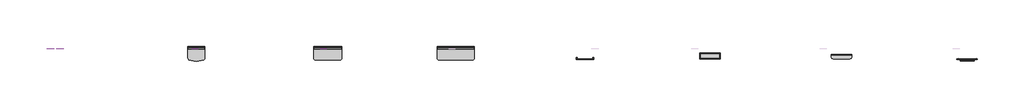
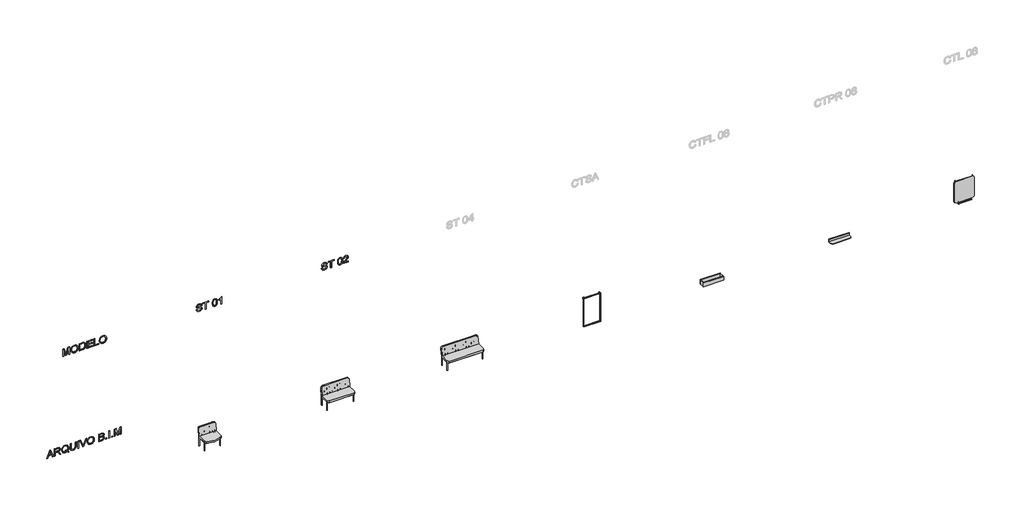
# One storey, part 1 of 2: 7 furniture elements, 4 proxies.
"""IFC4 building model written with IfcOpenShell, lengths in millimetres."""

from ifc_helpers import new_model, si_unit, frame, origin, place, context, project, spatial, polyline, outline, extrude, transform, mapped, element, save
from components import furniture_4c59f325, furniture_6d67d9ed, ctl08_756360dd, ctl08_a365a440, st_01_29b2883a, st_02_cedb4559, st_03_f2b1743f

model = new_model("IFC4")

# Units and contexts
model_context = context("Model", 3, world=origin())
ifc_project = project(units=[si_unit("LENGTHUNIT", "METRE", prefix="MILLI")], contexts=[model_context])

# Site, building, storey
site = spatial("IfcSite", under=ifc_project)
building = spatial("IfcBuilding", under=site)
storey = spatial("IfcBuildingStorey", under=building, Name="04 - Marelli - Planta Baixa - Acessórios", Elevation=-36000.0)

# Proxies
placement = place(None, origin())
element("IfcBuildingElementProxy", 1, Name="300mm Arial", ObjectType="300mm Arial", at=placement, inside=storey, context=model_context, shape_type="SweptSolid", body=[
    extrude(outline(polyline([(-34400.0, -7636.3146377), (-34400.0, -7596.5098058), (-34305.8222092, -7562.076051), (-34305.8222092, -7437.9526659), (-34400.0, -7403.4453347), (-34400.0, -7363.6405028), (-34098.6310696, -7483.9379153), (-34098.6310696, -7516.0172252), (-34400.0, -7636.3146377)]), holes=[polyline([(-34268.1510929, -7548.243688), (-34187.584936, -7518.739552), (-34136.3021859, -7499.9775703), (-34194.0596591, -7478.8611437), (-34268.1510929, -7451.7114525), (-34268.1510929, -7548.243688)])]), frame((0.0, 8778.3159498, 0.0), z_axis=(0.0, 1.0, 0.0), x_axis=(0.0, 0.0, 1.0)), (0.0, 0.0, 1.0), 10.0),
    extrude(outline(polyline([(-34400.0, -7323.3942126), (-34400.0, -7285.7230963), (-34268.1510929, -7285.7230963), (-34268.1510929, -7240.2528817), (-34269.4754681, -7218.4006911), (-34276.649167, -7200.484838), (-34296.183701, -7180.582422), (-34337.5336372, -7152.2555084), (-34400.0, -7113.0392877), (-34400.0, -7069.2613303), (-34318.3301971, -7119.5140108), (-34279.5554348, -7150.0482164), (-34263.4422034, -7171.4589486), (-34253.4542072, -7134.3488523), (-34245.4389783, -7119.9669655), (-34235.4095954, -7108.3671864), (-34210.7982899, -7093.0540983), (-34181.1102129, -7087.9497357), (-34157.2438684, -7091.0307474), (-34135.5296337, -7100.2737825), (-34118.0184507, -7114.6763626), (-34106.7612616, -7133.2360093), (-34100.6636176, -7158.629064), (-34098.6310696, -7193.5318683), (-34098.6310696, -7323.3942126), (-34400.0, -7323.3942126)]), holes=[polyline([(-34230.4799766, -7285.7230963), (-34136.3021859, -7285.7230963), (-34136.3021859, -7191.9131875), (-34139.5579415, -7162.1055488), (-34149.3252085, -7141.5501423), (-34164.1324588, -7129.6031746), (-34182.5081645, -7125.620852), (-34195.8162956, -7127.7085823), (-34208.0759631, -7133.9717732), (-34218.2111121, -7144.254075), (-34225.1456877, -7158.3991377), (-34229.1464044, -7177.1887106), (-34230.4799766, -7201.404543), (-34230.4799766, -7285.7230963)])]), frame((0.0, 8778.3159498, 0.0), z_axis=(0.0, 1.0, 0.0), x_axis=(0.0, 0.0, 1.0)), (0.0, 0.0, 1.0), 10.0),
    extrude(outline(polyline([(-34363.8739881, -6795.6307023), (-34340.3479345, -6777.1814202), (-34313.0326963, -6764.0664271), (-34281.9650618, -6756.2305406), (-34247.1818192, -6753.6185784), (-34205.3536364, -6757.9227978), (-34168.0136138, -6770.8354558), (-34136.8172207, -6791.9610794), (-34113.4199258, -6820.9041954), (-34098.7966164, -6855.7702114), (-34093.92218, -6894.6645354), (-34098.6862519, -6933.2553567), (-34112.9784674, -6967.9466288), (-34136.3849593, -6996.93573), (-34168.4918604, -7018.4200386), (-34206.944726, -7031.7189727), (-34249.3891112, -7036.1519507), (-34291.7967082, -7031.7097756), (-34329.6977507, -7018.3832504), (-34361.3539964, -6996.8161684), (-34385.0272028, -6967.6523232), (-34399.7884679, -6932.8322924), (-34404.7088895, -6894.2966534), (-34400.4414584, -6855.9449554), (-34387.639165, -6821.0881364), (-34408.47968, -6790.1308665), (-34422.8822601, -6759.063232), (-34395.2911105, -6748.9096889), (-34382.4704229, -6771.2953083), (-34363.8739881, -6795.6307023)]), holes=[polyline([(-34313.7684603, -6883.9223811), (-34342.6104088, -6893.6344658), (-34349.287467, -6873.2721974), (-34359.3122513, -6853.9767867), (-34365.1063928, -6873.6032912), (-34367.0377732, -6894.5173826), (-34365.1362832, -6916.2385151), (-34359.431813, -6935.9316982), (-34349.9243627, -6953.5969318), (-34336.6139322, -6969.2342158), (-34319.748842, -6982.0296115), (-34299.5774124, -6991.1691798), (-34276.0996433, -6996.6529208), (-34249.3155348, -6998.4808344), (-34221.8140564, -6996.6322274), (-34197.9500112, -6991.0864063), (-34177.7233993, -6981.8433712), (-34161.1342205, -6968.903122), (-34148.2100662, -6953.1577726), (-34138.9785274, -6935.4994369), (-34133.4396041, -6915.9281147), (-34131.5932963, -6894.4438062), (-34135.2445251, -6865.9605427), (-34146.1982115, -6840.4019411), (-34163.7645768, -6819.2027411), (-34187.2538422, -6803.7976826), (-34215.9394408, -6794.4166917), (-34249.0948056, -6791.2896947), (-34278.2678478, -6793.5015852), (-34303.5413409, -6800.1372567), (-34324.9152848, -6811.1967092), (-34342.3896796, -6826.6799427), (-34325.7430193, -6852.2477413), (-34313.7684603, -6883.9223811)])]), frame((0.0, 8778.3159498, 0.0), z_axis=(0.0, 1.0, 0.0), x_axis=(0.0, 0.0, 1.0)), (0.0, 0.0, 1.0), 10.0),
    extrude(outline(polyline([(-34098.6310696, -6499.3385434), (-34271.1677253, -6499.3385434), (-34318.3301971, -6504.1026152), (-34335.0688279, -6510.057705), (-34347.2457219, -6518.3948307), (-34355.9047444, -6529.5278596), (-34362.0897604, -6543.8706589), (-34367.0377732, -6582.1855687), (-34364.5361757, -6606.3554158), (-34357.031383, -6626.4785609), (-34344.9188683, -6641.9112106), (-34328.5941047, -6652.0095714), (-34305.0220659, -6657.5829836), (-34271.1677253, -6659.4407877), (-34098.6310696, -6659.4407877), (-34098.6310696, -6697.111904), (-34272.4921005, -6697.111904), (-34315.2675795, -6694.2516215), (-34347.9446977, -6685.6707739), (-34372.3076828, -6670.4036711), (-34390.1407625, -6647.4846228), (-34401.0668578, -6616.904432), (-34404.7088895, -6578.6539015), (-34400.5242318, -6539.5480454), (-34387.9702588, -6508.7563224), (-34368.7484245, -6486.2235502), (-34344.5601833, -6471.8945465), (-34313.2074403, -6464.2242069), (-34272.4921005, -6461.6674271), (-34098.6310696, -6461.6674271), (-34098.6310696, -6499.3385434)])), frame((0.0, 8778.3159498, 0.0), z_axis=(0.0, 1.0, 0.0), x_axis=(0.0, 0.0, 1.0)), (0.0, 0.0, 1.0), 10.0),
    extrude(outline(polyline([(-6353.3629677, 8778.3159498), (-6391.034084, 8778.3159498), (-6391.034084, 8788.3159498), (-6353.3629677, 8788.3159498), (-6353.3629677, 8778.3159498)])), frame((0.0, 0.0, -34400.0), z_axis=(0.0, 0.0, 1.0), x_axis=(1.0, 0.0, 0.0)), (0.0, 0.0, 1.0), 301.3689304),
    extrude(outline(polyline([(-34400.0, -6188.9932922), (-34400.0, -6150.0713771), (-34098.6310696, -6035.2186183), (-34098.6310696, -6075.5384849), (-34315.7550231, -6156.0310655), (-34364.6833285, -6172.0707205), (-34315.7550231, -6188.3311046), (-34098.6310696, -6268.602956), (-34098.6310696, -6308.9228227), (-34400.0, -6188.9932922)])), frame((0.0, 8778.3159498, 0.0), z_axis=(0.0, 1.0, 0.0), x_axis=(0.0, 0.0, 1.0)), (0.0, 0.0, 1.0), 10.0),
    extrude(outline(polyline([(-34253.2886603, -6014.3229209), (-34291.8334964, -6010.0187016), (-34328.2997991, -5997.1060436), (-34359.992833, -5975.8424642), (-34384.2178624, -5946.485481), (-34399.5861328, -5910.8377157), (-34404.7088895, -5870.70179), (-34400.0735764, -5832.892718), (-34386.167637, -5797.7507904), (-34363.2485887, -5767.7868019), (-34331.5739489, -5745.5115471), (-34293.1118863, -5731.6883811), (-34249.8305696, -5727.0806591), (-34207.1194699, -5731.4584548), (-34169.1908362, -5744.5918421), (-34137.5713787, -5766.0761506), (-34113.7878078, -5795.5067102), (-34098.8885869, -5830.9521404), (-34093.92218, -5870.4810608), (-34096.5663319, -5900.7715446), (-34104.4987874, -5928.1465636), (-34117.7195466, -5952.6061177), (-34136.2286095, -5974.1502071), (-34159.4097737, -5991.7257694), (-34186.6468369, -6004.2797425), (-34217.9397991, -6011.8121263), (-34253.2886603, -6014.3229209)]), holes=[polyline([(-34253.6565423, -5976.6518046), (-34223.1200375, -5974.6882345), (-34197.2878236, -5968.797524), (-34176.1599008, -5958.9796733), (-34159.736269, -5945.2346822), (-34147.4237184, -5928.7673644), (-34138.6290395, -5910.7825334), (-34133.3522321, -5891.2801891), (-34131.5932963, -5870.2603316), (-34135.2445251, -5841.0964864), (-34146.1982115, -5814.9676677), (-34163.7921679, -5793.3086153), (-34187.3642068, -5777.5540688), (-34216.1877611, -5767.9523488), (-34249.536264, -5764.7517754), (-34276.0743514, -5766.6210758), (-34299.4026684, -5772.228977), (-34319.521215, -5781.5754789), (-34336.4299912, -5794.6605816), (-34349.8208959, -5810.642755), (-34359.3858277, -5828.6804691), (-34365.1247869, -5848.7737238), (-34367.0377732, -5870.9225192), (-34365.143181, -5892.6988341), (-34359.4594041, -5912.557564), (-34349.9864428, -5930.4987091), (-34336.7242968, -5946.5222692), (-34320.1650085, -5959.703941), (-34300.80062, -5969.1194208), (-34278.6311313, -5974.7687087), (-34253.6565423, -5976.6518046)])]), frame((0.0, 8778.3159498, 0.0), z_axis=(0.0, 1.0, 0.0), x_axis=(0.0, 0.0, 1.0)), (0.0, 0.0, 1.0), 10.0),
    extrude(outline(polyline([(-34400.0, -5557.5606357), (-34400.0, -5443.4436408), (-34394.8128639, -5395.1407348), (-34388.3933231, -5377.10532), (-34379.5089729, -5362.3624491), (-34367.2401083, -5350.3235108), (-34350.6670244, -5340.399894), (-34331.1784758, -5333.7504269), (-34310.1632168, -5331.5339379), (-34284.944906, -5334.7804965), (-34263.2950506, -5344.5201723), (-34246.3356906, -5360.2931129), (-34235.1888662, -5381.6394656), (-34223.4442335, -5363.7695977), (-34208.5174215, -5351.0684718), (-34191.456894, -5343.4809057), (-34173.3111146, -5340.951717), (-34153.5926396, -5343.9591523), (-34134.7570815, -5352.9814582), (-34118.7450176, -5367.3104619), (-34107.4970256, -5386.2379906), (-34100.8475586, -5410.9320695), (-34098.6310696, -5442.560724), (-34098.6310696, -5557.5606357), (-34400.0, -5557.5606357)]), holes=[polyline([(-34221.0621975, -5519.8895194), (-34136.3021859, -5519.8895194), (-34136.3021859, -5456.3195106), (-34140.2385232, -5407.9062401), (-34145.8395266, -5395.4166463), (-34154.769862, -5386.2012024), (-34166.2109921, -5380.5174255), (-34179.3443793, -5378.6228333), (-34192.8732397, -5380.6553813), (-34203.8821084, -5386.7530254), (-34212.2422267, -5396.8605832), (-34217.824836, -5410.9228724), (-34221.0621975, -5451.0955863), (-34221.0621975, -5519.8895194)]), polyline([(-34362.3288837, -5519.8895194), (-34258.7333139, -5519.8895194), (-34258.7333139, -5446.3131204), (-34259.9933097, -5419.4853259), (-34263.7732972, -5399.776048), (-34270.6618875, -5385.8609115), (-34281.247692, -5376.4155413), (-34294.7857494, -5371.007676), (-34310.5310988, -5369.2050542), (-34324.0875503, -5370.7409615), (-34335.9149564, -5375.3486835), (-34352.6535872, -5391.0204565), (-34360.8573557, -5414.6752688), (-34362.3288837, -5442.6343004), (-34362.3288837, -5519.8895194)])]), frame((0.0, 8778.3159498, 0.0), z_axis=(0.0, 1.0, 0.0), x_axis=(0.0, 0.0, 1.0)), (0.0, 0.0, 1.0), 10.0),
    extrude(outline(polyline([(-5237.3561471, 8778.3159498), (-5275.0272634, 8778.3159498), (-5275.0272634, 8788.3159498), (-5237.3561471, 8788.3159498), (-5237.3561471, 8778.3159498)])), frame((0.0, 0.0, -34400.0), z_axis=(0.0, 0.0, 1.0), x_axis=(1.0, 0.0, 0.0)), (0.0, 0.0, 1.0), 37.6711163),
    extrude(outline(polyline([(-5119.6339087, 8778.3159498), (-5157.305025, 8778.3159498), (-5157.305025, 8788.3159498), (-5119.6339087, 8788.3159498), (-5119.6339087, 8778.3159498)])), frame((0.0, 0.0, -34400.0), z_axis=(0.0, 0.0, 1.0), x_axis=(1.0, 0.0, 0.0)), (0.0, 0.0, 1.0), 301.3689304),
    extrude(outline(polyline([(-5001.9116702, 8778.3159498), (-5039.5827865, 8778.3159498), (-5039.5827865, 8788.3159498), (-5001.9116702, 8788.3159498), (-5001.9116702, 8778.3159498)])), frame((0.0, 0.0, -34400.0), z_axis=(0.0, 0.0, 1.0), x_axis=(1.0, 0.0, 0.0)), (0.0, 0.0, 1.0), 37.6711163),
    extrude(outline(polyline([(-34400.0, -4926.5694376), (-34400.0, -4888.8983213), (-34136.3021859, -4888.8983213), (-34400.0, -4813.1882067), (-34400.0, -4762.1261857), (-34136.3021859, -4686.4160711), (-34400.0, -4686.4160711), (-34400.0, -4648.7449548), (-34098.6310696, -4648.7449548), (-34098.6310696, -4713.5657624), (-34307.3673136, -4774.1927152), (-34355.4127022, -4787.6571962), (-34311.0461336, -4800.0916076), (-34098.6310696, -4861.74863), (-34098.6310696, -4926.5694376), (-34400.0, -4926.5694376)])), frame((0.0, 8778.3159498, 0.0), z_axis=(0.0, 1.0, 0.0), x_axis=(0.0, 0.0, 1.0)), (0.0, 0.0, 1.0), 10.0),
])
element("IfcBuildingElementProxy", 2, Name="300mm Arial", ObjectType="300mm Arial", at=placement, inside=storey, context=model_context, shape_type="SweptSolid", body=[
    extrude(outline(polyline([(-30300.0, -6993.7719449), (-30300.0, -6956.1008286), (-30036.3021859, -6956.1008286), (-30300.0, -6880.390714), (-30300.0, -6829.328693), (-30036.3021859, -6753.6185784), (-30300.0, -6753.6185784), (-30300.0, -6715.9474621), (-29998.6310696, -6715.9474621), (-29998.6310696, -6780.7682697), (-30207.3673136, -6841.3952225), (-30255.4127022, -6854.8597035), (-30211.0461336, -6867.2941149), (-29998.6310696, -6928.9511373), (-29998.6310696, -6993.7719449), (-30300.0, -6993.7719449)])), frame((0.0, 8778.3159498, 0.0), z_axis=(0.0, 1.0, 0.0), x_axis=(0.0, 0.0, 1.0)), (0.0, 0.0, 1.0), 10.0),
    extrude(outline(polyline([(-30153.2886603, -6664.1496772), (-30191.8334964, -6659.8454579), (-30228.2997991, -6646.9327998), (-30259.992833, -6625.6692205), (-30284.2178624, -6596.3122373), (-30299.5861328, -6560.664472), (-30304.7088895, -6520.5285463), (-30300.0735764, -6482.7194742), (-30286.167637, -6447.5775466), (-30263.2485887, -6417.6135581), (-30231.5739489, -6395.3383033), (-30193.1118863, -6381.5151374), (-30149.8305696, -6376.9074154), (-30107.1194699, -6381.2852111), (-30069.1908362, -6394.4185983), (-30037.5713787, -6415.9029069), (-30013.7878078, -6445.3334665), (-29998.8885869, -6480.7788967), (-29993.92218, -6520.3078171), (-29996.5663319, -6550.5983009), (-30004.4987874, -6577.9733198), (-30017.7195466, -6602.432874), (-30036.2286095, -6623.9769633), (-30059.4097737, -6641.5525257), (-30086.6468369, -6654.1064987), (-30117.9397991, -6661.6388826), (-30153.2886603, -6664.1496772)]), holes=[polyline([(-30153.6565423, -6626.4785609), (-30123.1200375, -6624.5149908), (-30097.2878236, -6618.6242803), (-30076.1599008, -6608.8064296), (-30059.736269, -6595.0614385), (-30047.4237184, -6578.5941207), (-30038.6290395, -6560.6092897), (-30033.3522321, -6541.1069454), (-30031.5932963, -6520.0870879), (-30035.2445251, -6490.9232427), (-30046.1982115, -6464.794424), (-30063.7921679, -6443.1353716), (-30087.3642068, -6427.3808251), (-30116.1877611, -6417.779105), (-30149.536264, -6414.5785317), (-30176.0743514, -6416.4478321), (-30199.4026684, -6422.0557332), (-30219.521215, -6431.4022352), (-30236.4299912, -6444.4873379), (-30249.8208959, -6460.4695113), (-30259.3858277, -6478.5072254), (-30265.1247869, -6498.6004801), (-30267.0377732, -6520.7492755), (-30265.143181, -6542.5255903), (-30259.4594041, -6562.3843203), (-30249.9864428, -6580.3254653), (-30236.7242968, -6596.3490255), (-30220.1650085, -6609.5306972), (-30200.80062, -6618.9461771), (-30178.6311313, -6624.5954649), (-30153.6565423, -6626.4785609)])]), frame((0.0, 8778.3159498, 0.0), z_axis=(0.0, 1.0, 0.0), x_axis=(0.0, 0.0, 1.0)), (0.0, 0.0, 1.0), 10.0),
    extrude(outline(polyline([(-30300.0, -6325.1096305), (-30300.0, -6216.1429835), (-30294.8496521, -6167.6929247), (-30288.4944906, -6148.1491937), (-30279.7297021, -6131.6772774), (-30267.911493, -6117.3298796), (-30252.3960698, -6104.1597042), (-30232.7419742, -6092.7185741), (-30208.5077478, -6083.5583124), (-30180.0428784, -6077.5434418), (-30147.696854, -6075.5384849), (-30109.6210675, -6078.499935), (-30076.0334413, -6087.3842852), (-30047.4857985, -6102.2283237), (-30024.529962, -6123.0688387), (-30011.3413925, -6143.3391366), (-30002.9720771, -6167.3618309), (-29998.6310696, -6221.1461786), (-29998.6310696, -6325.1096305), (-30300.0, -6325.1096305)]), holes=[polyline([(-30262.3288837, -6287.4385141), (-30036.3021859, -6287.4385141), (-30036.3021859, -6221.8083662), (-30037.810502, -6190.06015), (-30042.3354506, -6168.3919005), (-30054.9170148, -6147.10073), (-30075.7391357, -6129.2860444), (-30106.0526121, -6117.228712), (-30147.1082428, -6113.2096012), (-30178.0931038, -6115.2605434), (-30204.0931639, -6121.4133697), (-30225.2003933, -6131.245016), (-30241.5067628, -6144.332418), (-30250.3175366, -6156.5093121), (-30256.8842302, -6172.2914497), (-30260.9677203, -6193.2055411), (-30262.3288837, -6220.7782966), (-30262.3288837, -6287.4385141)])]), frame((0.0, 8778.3159498, 0.0), z_axis=(0.0, 1.0, 0.0), x_axis=(0.0, 0.0, 1.0)), (0.0, 0.0, 1.0), 10.0),
    extrude(outline(polyline([(-30300.0, -6023.7407), (-30300.0, -5802.4228917), (-30262.3288837, -5802.4228917), (-30262.3288837, -5986.0695837), (-30163.4422034, -5986.0695837), (-30163.4422034, -5816.5495603), (-30125.7710871, -5816.5495603), (-30125.7710871, -5986.0695837), (-30036.3021859, -5986.0695837), (-30036.3021859, -5807.1317812), (-29998.6310696, -5807.1317812), (-29998.6310696, -6023.7407), (-30300.0, -6023.7407)])), frame((0.0, 8778.3159498, 0.0), z_axis=(0.0, 1.0, 0.0), x_axis=(0.0, 0.0, 1.0)), (0.0, 0.0, 1.0), 10.0),
    extrude(outline(polyline([(-30300.0, -5745.9162172), (-30300.0, -5557.5606357), (-30262.3288837, -5557.5606357), (-30262.3288837, -5708.2451009), (-29998.6310696, -5708.2451009), (-29998.6310696, -5745.9162172), (-30300.0, -5745.9162172)])), frame((0.0, 8778.3159498, 0.0), z_axis=(0.0, 1.0, 0.0), x_axis=(0.0, 0.0, 1.0)), (0.0, 0.0, 1.0), 10.0),
    extrude(outline(polyline([(-30153.2886603, -5529.3072985), (-30191.8334964, -5525.0030791), (-30228.2997991, -5512.0904211), (-30259.992833, -5490.8268418), (-30284.2178624, -5461.4698586), (-30299.5861328, -5425.8220932), (-30304.7088895, -5385.6861676), (-30300.0735764, -5347.8770955), (-30286.167637, -5312.7351679), (-30263.2485887, -5282.7711794), (-30231.5739489, -5260.4959246), (-30193.1118863, -5246.6727586), (-30149.8305696, -5242.0650367), (-30107.1194699, -5246.4428324), (-30069.1908362, -5259.5762196), (-30037.5713787, -5281.0605281), (-30013.7878078, -5310.4910878), (-29998.8885869, -5345.936518), (-29993.92218, -5385.4654384), (-29996.5663319, -5415.7559222), (-30004.4987874, -5443.1309411), (-30017.7195466, -5467.5904953), (-30036.2286095, -5489.1345846), (-30059.4097737, -5506.7101469), (-30086.6468369, -5519.26412), (-30117.9397991, -5526.7965039), (-30153.2886603, -5529.3072985)]), holes=[polyline([(-30153.6565423, -5491.6361822), (-30123.1200375, -5489.672612), (-30097.2878236, -5483.7819016), (-30076.1599008, -5473.9640508), (-30059.736269, -5460.2190598), (-30047.4237184, -5443.751742), (-30038.6290395, -5425.7669109), (-30033.3522321, -5406.2645667), (-30031.5932963, -5385.2447092), (-30035.2445251, -5356.080864), (-30046.1982115, -5329.9520453), (-30063.7921679, -5308.2929928), (-30087.3642068, -5292.5384464), (-30116.1877611, -5282.9367263), (-30149.536264, -5279.736153), (-30176.0743514, -5281.6054533), (-30199.4026684, -5287.2133545), (-30219.521215, -5296.5598565), (-30236.4299912, -5309.6449592), (-30249.8208959, -5325.6271326), (-30259.3858277, -5343.6648467), (-30265.1247869, -5363.7581014), (-30267.0377732, -5385.9068968), (-30265.143181, -5407.6832116), (-30259.4594041, -5427.5419416), (-30249.9864428, -5445.4830866), (-30236.7242968, -5461.5066468), (-30220.1650085, -5474.6883185), (-30200.80062, -5484.1037983), (-30178.6311313, -5489.7530862), (-30153.6565423, -5491.6361822)])]), frame((0.0, 8778.3159498, 0.0), z_axis=(0.0, 1.0, 0.0), x_axis=(0.0, 0.0, 1.0)), (0.0, 0.0, 1.0), 10.0),
])
element("IfcBuildingElementProxy", 3, Name="300mm Arial", ObjectType="300mm Arial", at=placement, inside=storey, context=model_context, shape_type="SweptSolid", body=[
    extrude(outline(polyline([(-30196.4044302, -1661.7952324), (-30226.8282712, -1657.3254662), (-30253.9411742, -1645.5348483), (-30276.1980349, -1627.1683396), (-30292.0537489, -1602.9709014), (-30301.5451044, -1572.5930457), (-30304.7088895, -1535.6852845), (-30301.7750306, -1505.6201284), (-30292.9734539, -1478.7003634), (-30278.8835735, -1456.314744), (-30260.0848035, -1439.8520247), (-30238.2418101, -1429.7260728), (-30215.0192591, -1426.3507555), (-30192.3025459, -1429.2846144), (-30172.4185241, -1438.0861912), (-30155.5511346, -1453.0681854), (-30141.8843185, -1474.5432969), (-30133.0735447, -1499.6696372), (-30122.9751839, -1541.2035144), (-30112.3433943, -1581.4498047), (-30101.9323338, -1602.713384), (-30090.2888686, -1611.7080988), (-30075.8127121, -1614.7063371), (-30058.8349581, -1610.4756941), (-30044.5427425, -1597.7837653), (-30034.8306579, -1575.8396043), (-30031.5932963, -1543.8522648), (-30034.8674461, -1512.6006893), (-30044.6898953, -1490.0679171), (-30060.9134913, -1475.6469429), (-30083.3910812, -1468.7307614), (-30083.3910812, -1431.0596451), (-30058.4302879, -1435.3086821), (-30036.2286095, -1445.9956541), (-30017.9264802, -1462.8814376), (-30004.6643343, -1485.7269095), (-29996.6077186, -1513.5387884), (-29993.92218, -1545.3237928), (-29996.4881569, -1574.6623819), (-30004.1860877, -1601.1682796), (-30016.8412283, -1623.2503964), (-30034.2788349, -1639.3176425), (-30054.8526355, -1649.1125007), (-30076.9163581, -1652.3774534), (-30096.6532272, -1649.7379), (-30114.3667452, -1641.8192401), (-30129.7258185, -1628.529503), (-30142.3993533, -1609.7767183), (-30151.4584474, -1586.7381084), (-30160.977394, -1550.7316581), (-30175.36158, -1495.8804526), (-30183.1698754, -1479.8040094), (-30192.4680928, -1470.2758658), (-30203.3665969, -1465.5853703), (-30215.9757523, -1464.0218718), (-30228.9160015, -1466.1096022), (-30241.2492454, -1472.3727931), (-30251.9913996, -1482.9034152), (-30260.1583799, -1497.793439), (-30265.3179249, -1516.1691446), (-30267.0377732, -1537.1568125), (-30264.7661019, -1560.9955658), (-30257.951088, -1582.3327215), (-30247.448057, -1599.7887222), (-30234.1123347, -1611.9840103), (-30217.3093245, -1619.8015027), (-30196.4044302, -1624.1241161), (-30196.4044302, -1661.7952324)])), frame((0.0, 8778.3159498, 0.0), z_axis=(0.0, 1.0, 0.0), x_axis=(0.0, 0.0, 1.0)), (0.0, 0.0, 1.0), 10.0),
    extrude(outline(polyline([(-30300.0, -1294.5018485), (-30300.0, -1256.8307321), (-30036.3021859, -1256.8307321), (-30036.3021859, -1157.9440518), (-29998.6310696, -1157.9440518), (-29998.6310696, -1393.3885288), (-30036.3021859, -1393.3885288), (-30036.3021859, -1294.5018485), (-30300.0, -1294.5018485)])), frame((0.0, 8778.3159498, 0.0), z_axis=(0.0, 1.0, 0.0), x_axis=(0.0, 0.0, 1.0)), (0.0, 0.0, 1.0), 10.0),
    extrude(outline(polyline([(-30151.7435559, -1011.9684762), (-30191.1851044, -1010.092278), (-30225.0440435, -1004.4636835), (-30253.3203733, -995.0826926), (-30276.0140939, -981.9493054), (-30288.568067, -968.2640951), (-30297.5351906, -952.2244401), (-30302.9154648, -933.8303404), (-30304.7088895, -913.0817959), (-30300.5794141, -882.6303637), (-30288.190988, -857.9362848), (-30267.4056552, -838.8340122), (-30238.0854602, -825.157999), (-30199.7061711, -816.9358364), (-30151.7435559, -814.1951156), (-30111.7823742, -815.9057668), (-30080.9262719, -821.0377207), (-30056.6276661, -828.8736072), (-30036.3389741, -838.6960564), (-30020.1981515, -851.700685), (-30008.3431542, -869.0831092), (-30001.0590907, -889.868442), (-29998.6310696, -913.0817959), (-30002.7329538, -943.3676811), (-30015.0386065, -968.0065777), (-30035.7411658, -987.1364415), (-30065.0337697, -1000.8952281), (-30103.5050293, -1009.2001641), (-30151.7435559, -1011.9684762)]), holes=[polyline([(-30151.6699795, -974.2973599), (-30093.1767423, -969.7356231), (-30072.097104, -964.0334522), (-30056.4621192, -956.0504129), (-30041.3421692, -937.1044901), (-30036.3021859, -913.5232543), (-30042.0227509, -888.6176432), (-30059.184446, -868.9359564), (-30073.5456393, -861.4679519), (-30093.7469594, -856.133663), (-30151.6699795, -851.8662319), (-30210.8346014, -856.2808158), (-30231.0980016, -861.7990457), (-30245.1487945, -869.5245676), (-30261.5655286, -889.2430426), (-30267.0377732, -913.0817959), (-30261.5839227, -936.9205491), (-30245.2223709, -956.6390241), (-30231.1945706, -964.364546), (-30210.9265719, -969.8827759), (-30151.6699795, -974.2973599)])]), frame((0.0, 8778.3159498, 0.0), z_axis=(0.0, 1.0, 0.0), x_axis=(0.0, 0.0, 1.0)), (0.0, 0.0, 1.0), 10.0),
    extrude(outline(polyline([(-30300.0, -639.9662026), (-29998.6310696, -639.9662026), (-29998.6310696, -664.2464143), (-30018.3679386, -677.5545455), (-30038.730207, -697.7604641), (-30057.8784649, -723.3926421), (-30073.9733022, -752.9795516), (-30109.5842793, -752.9795516), (-30090.5647801, -713.3218725), (-30065.1441343, -677.6373189), (-30300.0, -677.6373189), (-30300.0, -639.9662026)])), frame((0.0, 8778.3159498, 0.0), z_axis=(0.0, 1.0, 0.0), x_axis=(0.0, 0.0, 1.0)), (0.0, 0.0, 1.0), 10.0),
])
element("IfcBuildingElementProxy", 4, Name="300mm Arial", ObjectType="300mm Arial", at=placement, inside=storey, context=model_context, shape_type="SweptSolid", body=[
    extrude(outline(polyline([(-30196.4044302, 3338.2047676), (-30226.8282712, 3342.6745338), (-30253.9411742, 3354.4651517), (-30276.1980349, 3372.8316604), (-30292.0537489, 3397.0290986), (-30301.5451044, 3427.4069543), (-30304.7088895, 3464.3147155), (-30301.7750306, 3494.3798716), (-30292.9734539, 3521.2996366), (-30278.8835735, 3543.685256), (-30260.0848035, 3560.1479753), (-30238.2418101, 3570.2739272), (-30215.0192591, 3573.6492445), (-30192.3025459, 3570.7153856), (-30172.4185241, 3561.9138088), (-30155.5511346, 3546.9318146), (-30141.8843185, 3525.4567031), (-30133.0735447, 3500.3303628), (-30122.9751839, 3458.7964856), (-30112.3433943, 3418.5501953), (-30101.9323338, 3397.286616), (-30090.2888686, 3388.2919012), (-30075.8127121, 3385.2936629), (-30058.8349581, 3389.5243059), (-30044.5427425, 3402.2162347), (-30034.8306579, 3424.1603957), (-30031.5932963, 3456.1477352), (-30034.8674461, 3487.3993107), (-30044.6898953, 3509.9320829), (-30060.9134913, 3524.3530571), (-30083.3910812, 3531.2692386), (-30083.3910812, 3568.9403549), (-30058.4302879, 3564.6913179), (-30036.2286095, 3554.0043459), (-30017.9264802, 3537.1185624), (-30004.6643343, 3514.2730905), (-29996.6077186, 3486.4612116), (-29993.92218, 3454.6762072), (-29996.4881569, 3425.3376181), (-30004.1860877, 3398.8317204), (-30016.8412283, 3376.7496036), (-30034.2788349, 3360.6823575), (-30054.8526355, 3350.8874993), (-30076.9163581, 3347.6225466), (-30096.6532272, 3350.2621), (-30114.3667452, 3358.1807599), (-30129.7258185, 3371.470497), (-30142.3993533, 3390.2232817), (-30151.4584474, 3413.2618916), (-30160.977394, 3449.2683419), (-30175.36158, 3504.1195474), (-30183.1698754, 3520.1959906), (-30192.4680928, 3529.7241342), (-30203.3665969, 3534.4146297), (-30215.9757523, 3535.9781282), (-30228.9160015, 3533.8903978), (-30241.2492454, 3527.6272069), (-30251.9913996, 3517.0965848), (-30260.1583799, 3502.206561), (-30265.3179249, 3483.8308554), (-30267.0377732, 3462.8431875), (-30264.7661019, 3439.0044342), (-30257.951088, 3417.6672785), (-30247.448057, 3400.2112778), (-30234.1123347, 3388.0159897), (-30217.3093245, 3380.1984973), (-30196.4044302, 3375.8758839), (-30196.4044302, 3338.2047676)])), frame((0.0, 8778.3159498, 0.0), z_axis=(0.0, 1.0, 0.0), x_axis=(0.0, 0.0, 1.0)), (0.0, 0.0, 1.0), 10.0),
    extrude(outline(polyline([(-30300.0, 3705.4981515), (-30300.0, 3743.1692679), (-30036.3021859, 3743.1692679), (-30036.3021859, 3842.0559482), (-29998.6310696, 3842.0559482), (-29998.6310696, 3606.6114712), (-30036.3021859, 3606.6114712), (-30036.3021859, 3705.4981515), (-30300.0, 3705.4981515)])), frame((0.0, 8778.3159498, 0.0), z_axis=(0.0, 1.0, 0.0), x_axis=(0.0, 0.0, 1.0)), (0.0, 0.0, 1.0), 10.0),
    extrude(outline(polyline([(-30151.7435559, 3988.0315238), (-30191.1851044, 3989.907722), (-30225.0440435, 3995.5363165), (-30253.3203733, 4004.9173074), (-30276.0140939, 4018.0506946), (-30288.568067, 4031.7359049), (-30297.5351906, 4047.7755599), (-30302.9154648, 4066.1696596), (-30304.7088895, 4086.9182041), (-30300.5794141, 4117.3696363), (-30288.190988, 4142.0637152), (-30267.4056552, 4161.1659878), (-30238.0854602, 4174.842001), (-30199.7061711, 4183.0641636), (-30151.7435559, 4185.8048844), (-30111.7823742, 4184.0942332), (-30080.9262719, 4178.9622793), (-30056.6276661, 4171.1263928), (-30036.3389741, 4161.3039436), (-30020.1981515, 4148.299315), (-30008.3431542, 4130.9168908), (-30001.0590907, 4110.131558), (-29998.6310696, 4086.9182041), (-30002.7329538, 4056.6323189), (-30015.0386065, 4031.9934223), (-30035.7411658, 4012.8635585), (-30065.0337697, 3999.1047719), (-30103.5050293, 3990.7998359), (-30151.7435559, 3988.0315238)]), holes=[polyline([(-30151.6699795, 4025.7026401), (-30093.1767423, 4030.2643769), (-30072.097104, 4035.9665478), (-30056.4621192, 4043.9495871), (-30041.3421692, 4062.8955099), (-30036.3021859, 4086.4767457), (-30042.0227509, 4111.3823568), (-30059.184446, 4131.0640436), (-30073.5456393, 4138.5320481), (-30093.7469594, 4143.866337), (-30151.6699795, 4148.1337681), (-30210.8346014, 4143.7191842), (-30231.0980016, 4138.2009543), (-30245.1487945, 4130.4754324), (-30261.5655286, 4110.7569574), (-30267.0377732, 4086.9182041), (-30261.5839227, 4063.0794509), (-30245.2223709, 4043.3609759), (-30231.1945706, 4035.635454), (-30210.9265719, 4030.1172241), (-30151.6699795, 4025.7026401)])]), frame((0.0, 8778.3159498, 0.0), z_axis=(0.0, 1.0, 0.0), x_axis=(0.0, 0.0, 1.0)), (0.0, 0.0, 1.0), 10.0),
    extrude(outline(polyline([(-30262.3288837, 4411.8315823), (-30262.3288837, 4263.8694438), (-30243.1622317, 4280.865592), (-30206.9258552, 4324.202091), (-30177.9091629, 4356.8976034), (-30155.3120113, 4378.1703797), (-30136.3844826, 4391.5152991), (-30118.376659, 4400.4272404), (-30100.672338, 4405.4488297), (-30082.6553172, 4407.1226927), (-30065.5028192, 4405.5706906), (-30049.8034551, 4400.9146841), (-30035.5572248, 4393.1546732), (-30022.7641284, 4382.2906581), (-30012.2059152, 4368.764097), (-30004.6643343, 4353.0164483), (-30000.1393857, 4335.0477121), (-29998.6310696, 4314.8578884), (-30004.057329, 4276.9752399), (-30010.8401533, 4261.2413868), (-30020.3361073, 4247.6458478), (-30032.4164323, 4236.4461403), (-30046.9523696, 4227.8997817), (-30083.3910812, 4218.7671112), (-30088.0999708, 4256.4382275), (-30066.4501154, 4260.5125206), (-30050.0609725, 4272.2939415), (-30039.7418825, 4290.5500855), (-30036.3021859, 4314.048548), (-30039.824656, 4336.4249703), (-30050.3920663, 4354.1108972), (-30066.0730363, 4365.6164066), (-30084.9361856, 4369.4515764), (-30105.9790357, 4365.3864804), (-30127.6104971, 4353.1911923), (-30154.2635476, 4328.800616), (-30190.3711654, 4288.1496555), (-30213.4281695, 4260.6504764), (-30234.0387583, 4240.9871837), (-30253.7296421, 4227.393944), (-30274.0275311, 4218.1049236), (-30300.0, 4214.0582217), (-30300.0, 4411.8315823), (-30262.3288837, 4411.8315823)])), frame((0.0, 8778.3159498, 0.0), z_axis=(0.0, 1.0, 0.0), x_axis=(0.0, 0.0, 1.0)), (0.0, 0.0, 1.0), 10.0),
])

# Furniture
furniture_shape = furniture_4c59f325(model_context)
element("IfcFurniture", 5, ObjectType="Mobiliário_Mobiliário de Escritório_Prateleira - CTPR08_Marelli : CTPR 08", at=placement, inside=storey, context=model_context, shape_type="MappedRepresentation", body=[
    mapped(furniture_shape, transform((23492.1818479, 8388.3159498, -36000.0), x_axis=(1.0, 0.0, 0.0), y_axis=(0.0, 1.0, 0.0), z_axis=(0.0, 0.0, 1.0))),
])
furniture_2_shape = furniture_6d67d9ed(model_context)
element("IfcFurniture", 6, ObjectType="Mobiliário_Mobiliário de Escritório_Floreira - CTFL_Marelli : CTFL 08", at=placement, inside=storey, context=model_context, shape_type="MappedRepresentation", body=[
    mapped(furniture_2_shape, transform((18375.0181749, 8388.3159498, -36000.0), x_axis=(1.0, 0.0, 0.0), y_axis=(0.0, 1.0, 0.0), z_axis=(0.0, 0.0, 1.0))),
])
ctl08_shape = ctl08_756360dd(model_context)
element("IfcFurniture", 7, ObjectType="Mobiliário_Mobiliário de Escritório_Lousa - CTL08_Marelli : CTL08", at=placement, inside=storey, context=model_context, shape_type="MappedRepresentation", body=[
    mapped(ctl08_shape, transform((28375.0181749, 8388.3159498, -36000.0), x_axis=(1.0, 0.0, 0.0), y_axis=(0.0, 1.0, 0.0), z_axis=(0.0, 0.0, 1.0))),
])
ctl08_2_shape = ctl08_a365a440(model_context)
element("IfcFurniture", 8, ObjectType="Mobiliário_Mobiliário de Escritório_Suporte - CTSA_Marelli : CTL08", at=placement, inside=storey, context=model_context, shape_type="MappedRepresentation", body=[
    mapped(ctl08_2_shape, transform((13575.0181749, 8388.3159498, -36000.0), x_axis=(1.0, 0.0, 0.0), y_axis=(0.0, 1.0, 0.0), z_axis=(0.0, 0.0, 1.0))),
])
st_01_shape = st_01_29b2883a(model_context)
element("IfcFurniture", 9, ObjectType="Mobiliário_Mobiliário de Escritório_Sofá - ST 01_Marelli : ST 01", at=placement, inside=storey, context=model_context, shape_type="MappedRepresentation", body=[
    mapped(st_01_shape, transform((-1524.9818251, 8388.3159498, -36000.0), x_axis=(1.0, 0.0, 0.0), y_axis=(0.0, 1.0, 0.0), z_axis=(0.0, 0.0, 1.0))),
])
st_02_shape = st_02_cedb4559(model_context)
element("IfcFurniture", 10, ObjectType="Mobiliário_Mobiliário de Escritório_Sofá - ST 02_Marelli : ST 02", at=placement, inside=storey, context=model_context, shape_type="MappedRepresentation", body=[
    mapped(st_02_shape, transform((3375.0181749, 8388.3159498, -36000.0), x_axis=(1.0, 0.0, 0.0), y_axis=(0.0, 1.0, 0.0), z_axis=(0.0, 0.0, 1.0))),
])
st_03_shape = st_03_f2b1743f(model_context)
element("IfcFurniture", 11, ObjectType="Mobiliário_Mobiliário de Escritório_Sofá - ST 03_Marelli : ST 03", at=placement, inside=storey, context=model_context, shape_type="MappedRepresentation", body=[
    mapped(st_03_shape, transform((8175.0181749, 8388.3159498, -36000.0), x_axis=(1.0, 0.0, 0.0), y_axis=(0.0, 1.0, 0.0), z_axis=(0.0, 0.0, 1.0))),
])

save(model, "model.ifc")
